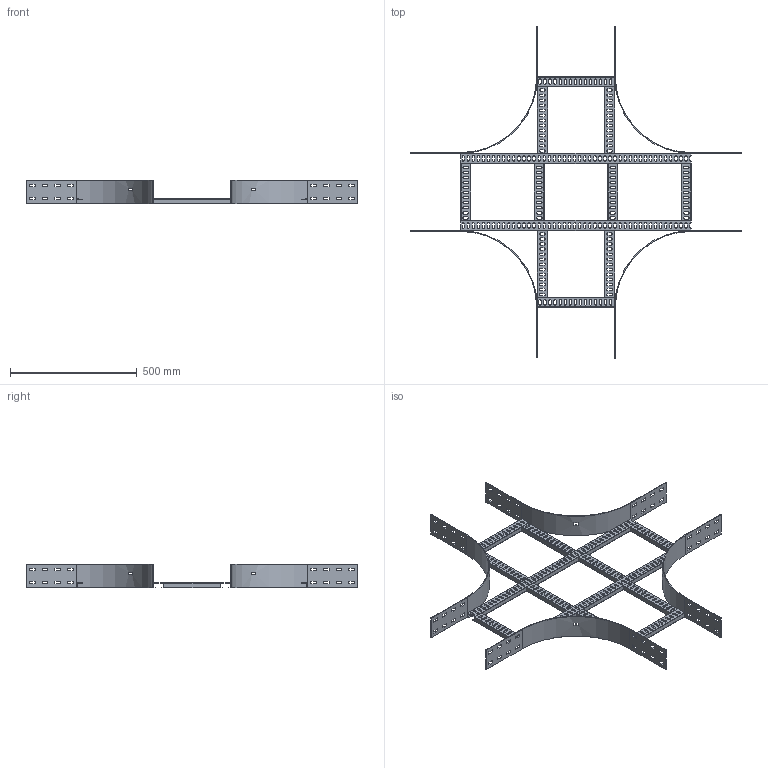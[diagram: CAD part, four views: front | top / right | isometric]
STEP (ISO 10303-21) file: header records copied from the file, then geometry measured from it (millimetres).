
FILE_DESCRIPTION(/* description */ ('','CAx-IF Rec.Pracs.---Representation and Presentation of Product Manufacturing Information (PMI)---4.0---2014-10-13'),/* implementation_level */ '2;1');
FILE_NAME(/* name */ 'Eurostrut_ECO100-300-300_Crossover for Cable Ladder ECL.step',/* time_stamp */ '2026-09-03T13:26:51+02:00',/* author */ (''),/* organization */ (''),/* preprocessor_version */ 'ST-DEVELOPER v20.1',/* originating_system */ 'Autodesk Revit 2027 27.2.0.39',/* authorisation */ '');
FILE_SCHEMA (('AP242_MANAGED_MODEL_BASED_3D_ENGINEERING_MIM_LF { 1 0 10303 442 2 1 4 }'));
Length unit declared in the file: millimetre
Products named in the file (10): TopLevelAssembly; Sweep; Sweep_1; Sweep_2; Sweep_3; Eurostrut_Cable Ladder_Rung_With slots; Eurostrut_Cable Ladder_Rung_With slots_1; Eurostrut_Cable Ladder_Rung Array Straight_Slotted; Eurostrut_Cable Ladder_Rung Array Straight_Slotted_1; Eurostrut_Cable Ladder_Accessory End_54-94-142
Assembly tree (19 placements, depth 2):
  TopLevelAssembly
    Sweep
    Sweep_1
    Eurostrut_Cable Ladder_Rung_With slots  x2
    Eurostrut_Cable Ladder_Rung_With slots_1  x2
    Sweep_2
    Sweep_3
    Eurostrut_Cable Ladder_Rung Array Straight_Slotted
    Eurostrut_Cable Ladder_Rung Array Straight_Slotted_1  x2
    Eurostrut_Cable Ladder_Accessory End_54-94-142  x8
Bounding box: 1311 x 1311 x 94 mm (x, y, z)
Volume: 1473715.3 mm3; surface area: 1416142.3 mm2
Topology: 24 solids, 24 shells, 1432 faces, 4152 edges, 2768 vertices
Faces by surface type: plane 940, bspline 436, cylinder 56
Entity records: 32770 total; most frequent: CARTESIAN_POINT 12433, ORIENTED_EDGE 4320, DIRECTION 3806, EDGE_CURVE 2160, LINE 1540, VECTOR 1540, VERTEX_POINT 1440, AXIS2_PLACEMENT_3D 1133
